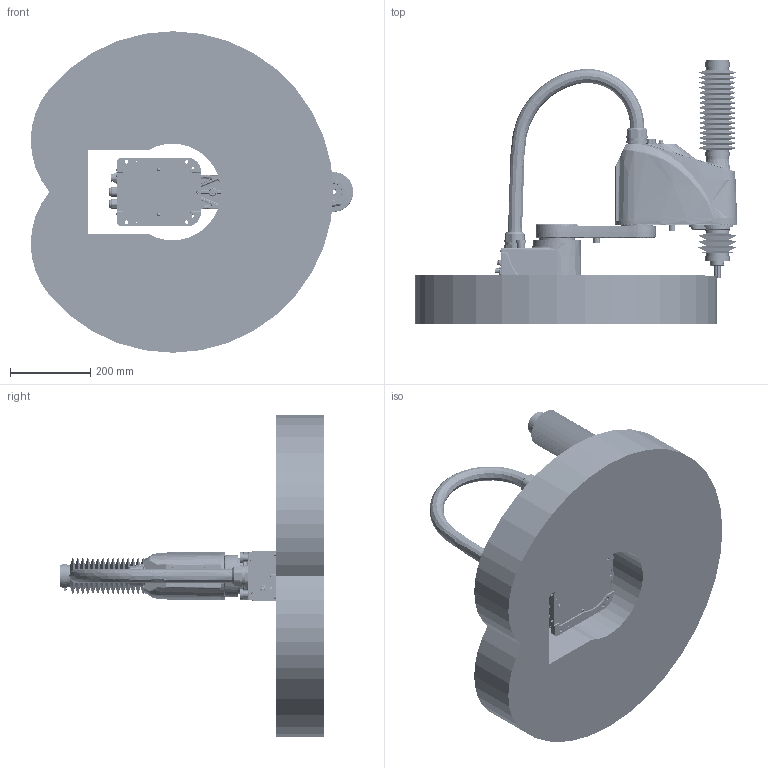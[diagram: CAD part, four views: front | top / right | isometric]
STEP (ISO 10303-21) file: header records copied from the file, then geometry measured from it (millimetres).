
FILE_DESCRIPTION (( 'STEP AP214' ), '1' );
FILE_NAME ('TRH002-400-120-C.STEP', '2025-01-15T07:55:04', ( 'Windows User' ), ( 'P R C' ), 'SwSTEP 2.0', 'SolidWorks 2023', '' );
FILE_SCHEMA (( 'AUTOMOTIVE_DESIGN' ));
Length unit declared in the file: millimetre
Products named in the file (7): 复件 400C_5^TRH002-400-120-C可拖动机器人（SW2023）; 400C_1_TRH002-400-150-C可拖动机器人（SW2023）; 复件 400C_2^TRH002-400-120-C可拖动机器人（SW2023）; 复件 TRH002_Space^TRH002-400-120-C可拖动机器人（SW2023）; 复件 400C_4^TRH002-400-120-C可拖动机器人（SW2023）; TRH002-400-120-C; 复件 400C_3^TRH002-400-120-C可拖动机器人（SW2023）
Assembly tree (6 placements, depth 2):
  TRH002-400-120-C
    400C_1_TRH002-400-150-C可拖动机器人（SW2023）
    复件 400C_2^TRH002-400-120-C可拖动机器人（SW2023）
    复件 400C_5^TRH002-400-120-C可拖动机器人（SW2023）
    复件 400C_3^TRH002-400-120-C可拖动机器人（SW2023）
    复件 400C_4^TRH002-400-120-C可拖动机器人（SW2023）
    复件 TRH002_Space^TRH002-400-120-C可拖动机器人（SW2023）
Bounding box: 802.68 x 656.71 x 800 mm (x, y, z)
Volume: 51288969.8 mm3; surface area: 2824251 mm2
Topology: 26 solids, 183 shells, 6919 faces, 18328 edges, 11757 vertices
Faces by surface type: plane 2949, cylinder 2305, cone 761, bspline 668, torus 214, sphere 22
Entity records: 269819 total; most frequent: CARTESIAN_POINT 99948, ORIENTED_EDGE 35396, DIRECTION 34907, EDGE_CURVE 18196, AXIS2_PLACEMENT_3D 12439, VERTEX_POINT 11757, VECTOR 10029, LINE 10029
